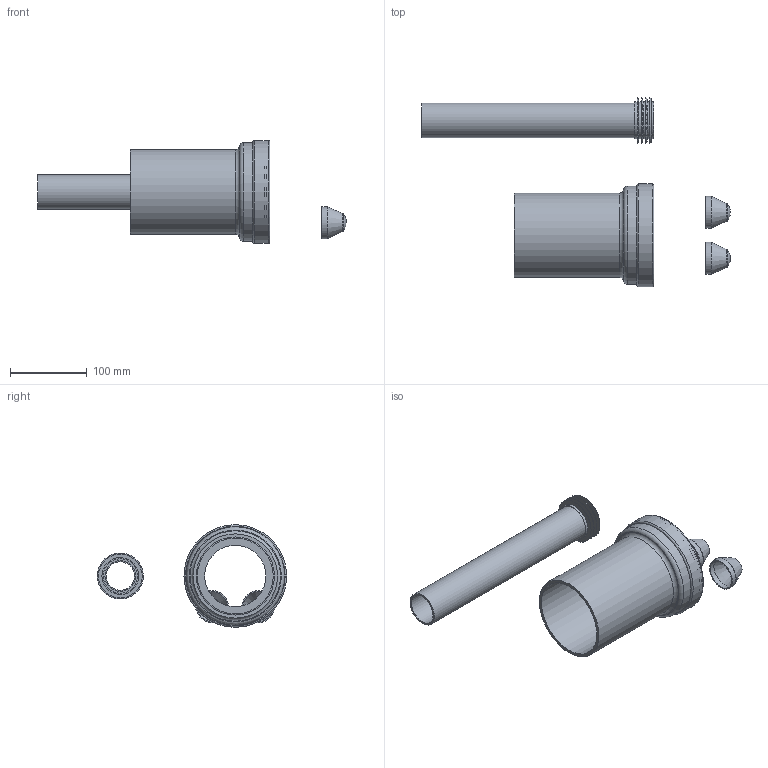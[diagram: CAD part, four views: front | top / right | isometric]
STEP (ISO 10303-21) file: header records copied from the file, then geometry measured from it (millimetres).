
FILE_DESCRIPTION(/* description */ (''),/* implementation_level */ '2;1');
FILE_NAME(/* name */ 'H:\Geberit-Teile\Export\152.441.46.1\stp\152441.stp',/* time_stamp */ '2016-07-27T10:29:38+02:00',/* author */ ('seihe2'),/* organization */ (''),/* preprocessor_version */ 'ST-DEVELOPER v15.2',/* originating_system */ 'Autodesk Inventor 2014',/* authorisation */ '');
FILE_SCHEMA (('AUTOMOTIVE_DESIGN { 1 0 10303 214 3 1 1 }'));
Length unit declared in the file: millimetre
Products named in the file (1): 152441
Bounding box: 403 x 246.98 x 134 mm (x, y, z)
Volume: 462024.1 mm3; surface area: 285638.2 mm2
Topology: 6 solids, 6 shells, 100 faces, 181 edges, 106 vertices
Faces by surface type: cylinder 27, plane 25, cone 24, torus 20, sphere 4
Full cylindrical faces by diameter (mm): 37 x1, 39 x2, 40 x1, 42 x3, 45 x1, 48 x5, 80 x1, 102 x1, 110 x1, 122 x4, 123.6 x3, 127 x1, 128 x1, 132 x1, 134 x1
Entity records: 2126 total; most frequent: DIRECTION 398, CARTESIAN_POINT 297, AXIS2_PLACEMENT_3D 199, EDGE_LOOP 196, ORIENTED_EDGE 196, FACE_BOUND 112, STYLED_ITEM 106, ADVANCED_FACE 100
